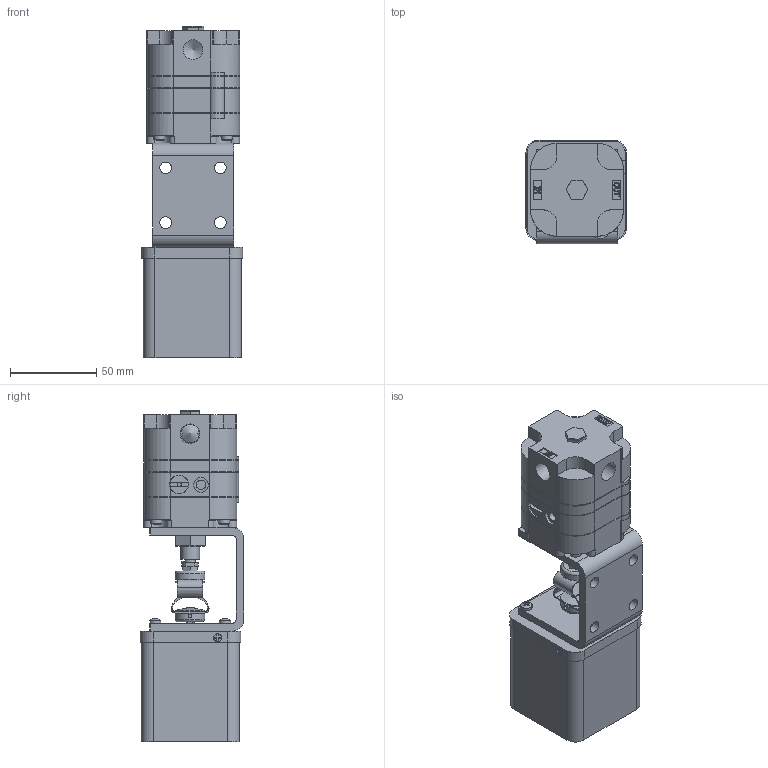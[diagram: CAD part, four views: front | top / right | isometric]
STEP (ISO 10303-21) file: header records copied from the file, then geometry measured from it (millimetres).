
FILE_DESCRIPTION(/* description */ (''),/* implementation_level */ '2;1');
FILE_NAME(/* name */ 'U:/AirCom-Produktdokumentation/Proportionaldruckregler/P180/Zeichnungen/CAD-Aircom/3D/B-P180-02CV.step',/* time_stamp */ '2021-11-03T14:03:55+01:00',/* author */ (''),/* organization */ (''),/* preprocessor_version */ 'ST-DEVELOPER v18.1',/* originating_system */ 'Autodesk Translation Framework v10.10.0.1391',/* authorisation */ '');
FILE_SCHEMA (('AUTOMOTIVE_DESIGN { 1 0 10303 214 3 1 1 }'));
Length unit declared in the file: inch
Products named in the file (1): T130
Bounding box: 58.67 x 60.33 x 192.39 mm (x, y, z)
Volume: 403761.6 mm3; surface area: 63832.7 mm2
Topology: 3 solids, 8 shells, 622 faces, 1627 edges, 1048 vertices
Faces by surface type: plane 385, cylinder 143, cone 35, torus 27, bspline 26, sphere 6
Full cylindrical faces by diameter (mm): 2.159 x2, 2.472 x1, 4.445 x4, 4.572 x1, 4.826 x1, 5.461 x1, 6.223 x3, 6.35 x1, 6.54 x4, 6.604 x2, 6.756 x4, 8.509 x1, 10.515 x1, 10.719 x2, 10.922 x1, 10.973 x1, 11.455 x2, 12.7 x1, 17.196 x4, 18.923 x1
Entity records: 20319 total; most frequent: CARTESIAN_POINT 4644, ORIENTED_EDGE 3242, DIRECTION 3140, EDGE_CURVE 1621, AXIS2_PLACEMENT_3D 1090, VERTEX_POINT 1048, LINE 960, VECTOR 960
